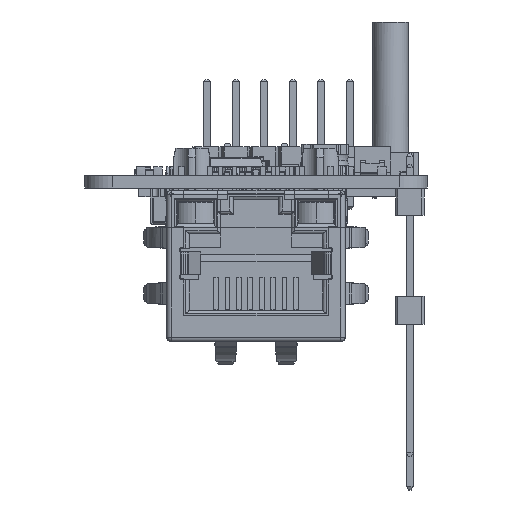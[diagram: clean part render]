
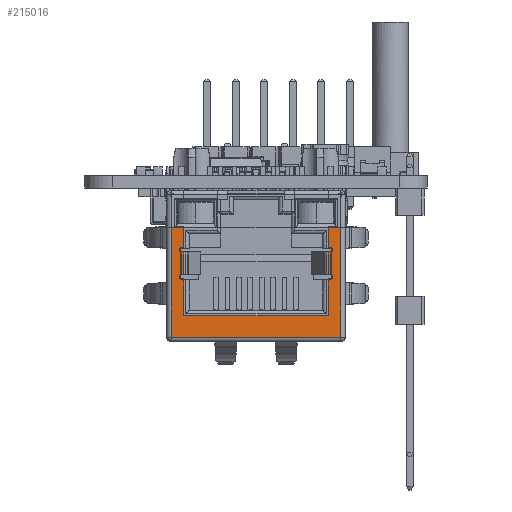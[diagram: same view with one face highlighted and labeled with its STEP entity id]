
A CAD part, front view. The second image highlights one B-rep face of the part: STEP entity #215016.
In plain terms, the highlighted planar face has unit normal (0, -1, 0).
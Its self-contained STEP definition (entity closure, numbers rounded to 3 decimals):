
#213726 = VERTEX_POINT('',#213727);
#213727 = CARTESIAN_POINT('',(306.45,256.575,
    -4.591));
#213733 = EDGE_CURVE('',#213734,#213726,#213736,.T.);
#213734 = VERTEX_POINT('',#213735);
#213735 = CARTESIAN_POINT('',(307.55,256.575,
    -4.591));
#213736 = LINE('',#213737,#213738);
#213737 = CARTESIAN_POINT('',(296.025,256.575,
    -4.591));
#213738 = VECTOR('',#213739,1.);
#213739 = DIRECTION('',(-1.,0.,0.));
#213944 = VERTEX_POINT('',#213945);
#213945 = CARTESIAN_POINT('',(292.45,256.575,
    -4.591));
#213952 = EDGE_CURVE('',#213953,#213944,#213955,.T.);
#213953 = VERTEX_POINT('',#213954);
#213954 = CARTESIAN_POINT('',(293.55,256.575,
    -4.591));
#213955 = LINE('',#213956,#213957);
#213956 = CARTESIAN_POINT('',(296.025,256.575,
    -4.591));
#213957 = VECTOR('',#213958,1.);
#213958 = DIRECTION('',(-1.,0.,0.));
#214831 = EDGE_CURVE('',#213734,#214832,#214834,.T.);
#214832 = VERTEX_POINT('',#214833);
#214833 = CARTESIAN_POINT('',(307.55,256.575,
    -14.391));
#214834 = LINE('',#214835,#214836);
#214835 = CARTESIAN_POINT('',(307.55,256.575,
    -1.691));
#214836 = VECTOR('',#214837,1.);
#214837 = DIRECTION('',(0.,0.,-1.));
#214865 = VERTEX_POINT('',#214866);
#214866 = CARTESIAN_POINT('',(306.45,256.575,
    -6.391));
#214872 = EDGE_CURVE('',#214865,#213726,#214873,.T.);
#214873 = LINE('',#214874,#214875);
#214874 = CARTESIAN_POINT('',(306.45,256.575,
    -6.391));
#214875 = VECTOR('',#214876,1.);
#214876 = DIRECTION('',(0.,0.,1.));
#215016 = ADVANCED_FACE('',(#215017),#215183,.T.);
#215017 = FACE_BOUND('',#215018,.T.);
#215018 = EDGE_LOOP('',(#215019,#215020,#215021,#215029,#215038,#215046,
    #215054,#215062,#215071,#215079,#215087,#215095,#215103,#215111,
    #215120,#215128,#215136,#215144,#215153,#215161,#215167,#215168,
    #215176,#215182));
#215019 = ORIENTED_EDGE('',*,*,#213733,.T.);
#215020 = ORIENTED_EDGE('',*,*,#214872,.F.);
#215021 = ORIENTED_EDGE('',*,*,#215022,.F.);
#215022 = EDGE_CURVE('',#215023,#214865,#215025,.T.);
#215023 = VERTEX_POINT('',#215024);
#215024 = CARTESIAN_POINT('',(306.65,256.575,
    -6.391));
#215025 = LINE('',#215026,#215027);
#215026 = CARTESIAN_POINT('',(306.65,256.575,
    -6.391));
#215027 = VECTOR('',#215028,1.);
#215028 = DIRECTION('',(-1.,0.,0.));
#215029 = ORIENTED_EDGE('',*,*,#215030,.F.);
#215030 = EDGE_CURVE('',#215031,#215023,#215033,.T.);
#215031 = VERTEX_POINT('',#215032);
#215032 = CARTESIAN_POINT('',(306.65,256.575,
    -6.791));
#215033 = CIRCLE('',#215034,0.2);
#215034 = AXIS2_PLACEMENT_3D('',#215035,#215036,#215037);
#215035 = CARTESIAN_POINT('',(306.65,256.575,
    -6.591));
#215036 = DIRECTION('',(0.,-1.,0.));
#215037 = DIRECTION('',(0.,0.,-1.));
#215038 = ORIENTED_EDGE('',*,*,#215039,.T.);
#215039 = EDGE_CURVE('',#215031,#215040,#215042,.T.);
#215040 = VERTEX_POINT('',#215041);
#215041 = CARTESIAN_POINT('',(306.45,256.575,
    -6.791));
#215042 = LINE('',#215043,#215044);
#215043 = CARTESIAN_POINT('',(306.65,256.575,
    -6.791));
#215044 = VECTOR('',#215045,1.);
#215045 = DIRECTION('',(-1.,0.,0.));
#215046 = ORIENTED_EDGE('',*,*,#215047,.T.);
#215047 = EDGE_CURVE('',#215040,#215048,#215050,.T.);
#215048 = VERTEX_POINT('',#215049);
#215049 = CARTESIAN_POINT('',(306.45,256.575,
    -8.791));
#215050 = LINE('',#215051,#215052);
#215051 = CARTESIAN_POINT('',(306.45,256.575,
    -6.791));
#215052 = VECTOR('',#215053,1.);
#215053 = DIRECTION('',(0.,0.,-1.));
#215054 = ORIENTED_EDGE('',*,*,#215055,.F.);
#215055 = EDGE_CURVE('',#215056,#215048,#215058,.T.);
#215056 = VERTEX_POINT('',#215057);
#215057 = CARTESIAN_POINT('',(306.65,256.575,
    -8.791));
#215058 = LINE('',#215059,#215060);
#215059 = CARTESIAN_POINT('',(306.65,256.575,
    -8.791));
#215060 = VECTOR('',#215061,1.);
#215061 = DIRECTION('',(-1.,0.,0.));
#215062 = ORIENTED_EDGE('',*,*,#215063,.F.);
#215063 = EDGE_CURVE('',#215064,#215056,#215066,.T.);
#215064 = VERTEX_POINT('',#215065);
#215065 = CARTESIAN_POINT('',(306.65,256.575,
    -9.191));
#215066 = CIRCLE('',#215067,0.2);
#215067 = AXIS2_PLACEMENT_3D('',#215068,#215069,#215070);
#215068 = CARTESIAN_POINT('',(306.65,256.575,
    -8.991));
#215069 = DIRECTION('',(0.,-1.,0.));
#215070 = DIRECTION('',(0.,0.,-1.));
#215071 = ORIENTED_EDGE('',*,*,#215072,.F.);
#215072 = EDGE_CURVE('',#215073,#215064,#215075,.T.);
#215073 = VERTEX_POINT('',#215074);
#215074 = CARTESIAN_POINT('',(306.45,256.575,
    -9.191));
#215075 = LINE('',#215076,#215077);
#215076 = CARTESIAN_POINT('',(306.45,256.575,
    -9.191));
#215077 = VECTOR('',#215078,1.);
#215078 = DIRECTION('',(1.,0.,0.));
#215079 = ORIENTED_EDGE('',*,*,#215080,.F.);
#215080 = EDGE_CURVE('',#215081,#215073,#215083,.T.);
#215081 = VERTEX_POINT('',#215082);
#215082 = CARTESIAN_POINT('',(306.45,256.575,
    -12.461));
#215083 = LINE('',#215084,#215085);
#215084 = CARTESIAN_POINT('',(306.45,256.575,
    -12.461));
#215085 = VECTOR('',#215086,1.);
#215086 = DIRECTION('',(0.,0.,1.));
#215087 = ORIENTED_EDGE('',*,*,#215088,.F.);
#215088 = EDGE_CURVE('',#215089,#215081,#215091,.T.);
#215089 = VERTEX_POINT('',#215090);
#215090 = CARTESIAN_POINT('',(293.55,256.575,
    -12.461));
#215091 = LINE('',#215092,#215093);
#215092 = CARTESIAN_POINT('',(293.55,256.575,
    -12.461));
#215093 = VECTOR('',#215094,1.);
#215094 = DIRECTION('',(1.,0.,0.));
#215095 = ORIENTED_EDGE('',*,*,#215096,.F.);
#215096 = EDGE_CURVE('',#215097,#215089,#215099,.T.);
#215097 = VERTEX_POINT('',#215098);
#215098 = CARTESIAN_POINT('',(293.55,256.575,
    -9.191));
#215099 = LINE('',#215100,#215101);
#215100 = CARTESIAN_POINT('',(293.55,256.575,
    -9.191));
#215101 = VECTOR('',#215102,1.);
#215102 = DIRECTION('',(0.,0.,-1.));
#215103 = ORIENTED_EDGE('',*,*,#215104,.F.);
#215104 = EDGE_CURVE('',#215105,#215097,#215107,.T.);
#215105 = VERTEX_POINT('',#215106);
#215106 = CARTESIAN_POINT('',(293.35,256.575,
    -9.191));
#215107 = LINE('',#215108,#215109);
#215108 = CARTESIAN_POINT('',(293.35,256.575,
    -9.191));
#215109 = VECTOR('',#215110,1.);
#215110 = DIRECTION('',(1.,0.,0.));
#215111 = ORIENTED_EDGE('',*,*,#215112,.F.);
#215112 = EDGE_CURVE('',#215113,#215105,#215115,.T.);
#215113 = VERTEX_POINT('',#215114);
#215114 = CARTESIAN_POINT('',(293.35,256.575,
    -8.791));
#215115 = CIRCLE('',#215116,0.2);
#215116 = AXIS2_PLACEMENT_3D('',#215117,#215118,#215119);
#215117 = CARTESIAN_POINT('',(293.35,256.575,
    -8.991));
#215118 = DIRECTION('',(0.,-1.,0.));
#215119 = DIRECTION('',(0.,0.,1.));
#215120 = ORIENTED_EDGE('',*,*,#215121,.F.);
#215121 = EDGE_CURVE('',#215122,#215113,#215124,.T.);
#215122 = VERTEX_POINT('',#215123);
#215123 = CARTESIAN_POINT('',(293.55,256.575,
    -8.791));
#215124 = LINE('',#215125,#215126);
#215125 = CARTESIAN_POINT('',(293.55,256.575,
    -8.791));
#215126 = VECTOR('',#215127,1.);
#215127 = DIRECTION('',(-1.,0.,0.));
#215128 = ORIENTED_EDGE('',*,*,#215129,.F.);
#215129 = EDGE_CURVE('',#215130,#215122,#215132,.T.);
#215130 = VERTEX_POINT('',#215131);
#215131 = CARTESIAN_POINT('',(293.55,256.575,
    -6.791));
#215132 = LINE('',#215133,#215134);
#215133 = CARTESIAN_POINT('',(293.55,256.575,
    -6.791));
#215134 = VECTOR('',#215135,1.);
#215135 = DIRECTION('',(0.,0.,-1.));
#215136 = ORIENTED_EDGE('',*,*,#215137,.T.);
#215137 = EDGE_CURVE('',#215130,#215138,#215140,.T.);
#215138 = VERTEX_POINT('',#215139);
#215139 = CARTESIAN_POINT('',(293.35,256.575,
    -6.791));
#215140 = LINE('',#215141,#215142);
#215141 = CARTESIAN_POINT('',(293.55,256.575,
    -6.791));
#215142 = VECTOR('',#215143,1.);
#215143 = DIRECTION('',(-1.,0.,0.));
#215144 = ORIENTED_EDGE('',*,*,#215145,.F.);
#215145 = EDGE_CURVE('',#215146,#215138,#215148,.T.);
#215146 = VERTEX_POINT('',#215147);
#215147 = CARTESIAN_POINT('',(293.35,256.575,
    -6.391));
#215148 = CIRCLE('',#215149,0.2);
#215149 = AXIS2_PLACEMENT_3D('',#215150,#215151,#215152);
#215150 = CARTESIAN_POINT('',(293.35,256.575,
    -6.591));
#215151 = DIRECTION('',(0.,-1.,0.));
#215152 = DIRECTION('',(0.,0.,1.));
#215153 = ORIENTED_EDGE('',*,*,#215154,.F.);
#215154 = EDGE_CURVE('',#215155,#215146,#215157,.T.);
#215155 = VERTEX_POINT('',#215156);
#215156 = CARTESIAN_POINT('',(293.55,256.575,
    -6.391));
#215157 = LINE('',#215158,#215159);
#215158 = CARTESIAN_POINT('',(293.55,256.575,
    -6.391));
#215159 = VECTOR('',#215160,1.);
#215160 = DIRECTION('',(-1.,0.,0.));
#215161 = ORIENTED_EDGE('',*,*,#215162,.F.);
#215162 = EDGE_CURVE('',#213953,#215155,#215163,.T.);
#215163 = LINE('',#215164,#215165);
#215164 = CARTESIAN_POINT('',(293.55,256.575,
    -4.491));
#215165 = VECTOR('',#215166,1.);
#215166 = DIRECTION('',(0.,0.,-1.));
#215167 = ORIENTED_EDGE('',*,*,#213952,.T.);
#215168 = ORIENTED_EDGE('',*,*,#215169,.T.);
#215169 = EDGE_CURVE('',#213944,#215170,#215172,.T.);
#215170 = VERTEX_POINT('',#215171);
#215171 = CARTESIAN_POINT('',(292.45,256.575,
    -14.391));
#215172 = LINE('',#215173,#215174);
#215173 = CARTESIAN_POINT('',(292.45,256.575,
    -1.691));
#215174 = VECTOR('',#215175,1.);
#215175 = DIRECTION('',(0.,0.,-1.));
#215176 = ORIENTED_EDGE('',*,*,#215177,.T.);
#215177 = EDGE_CURVE('',#215170,#214832,#215178,.T.);
#215178 = LINE('',#215179,#215180);
#215179 = CARTESIAN_POINT('',(292.45,256.575,
    -14.391));
#215180 = VECTOR('',#215181,1.);
#215181 = DIRECTION('',(1.,0.,0.));
#215182 = ORIENTED_EDGE('',*,*,#214831,.F.);
#215183 = PLANE('',#215184);
#215184 = AXIS2_PLACEMENT_3D('',#215185,#215186,#215187);
#215185 = CARTESIAN_POINT('',(292.05,256.575,
    -1.691));
#215186 = DIRECTION('',(0.,-1.,0.));
#215187 = DIRECTION('',(1.,0.,0.));
